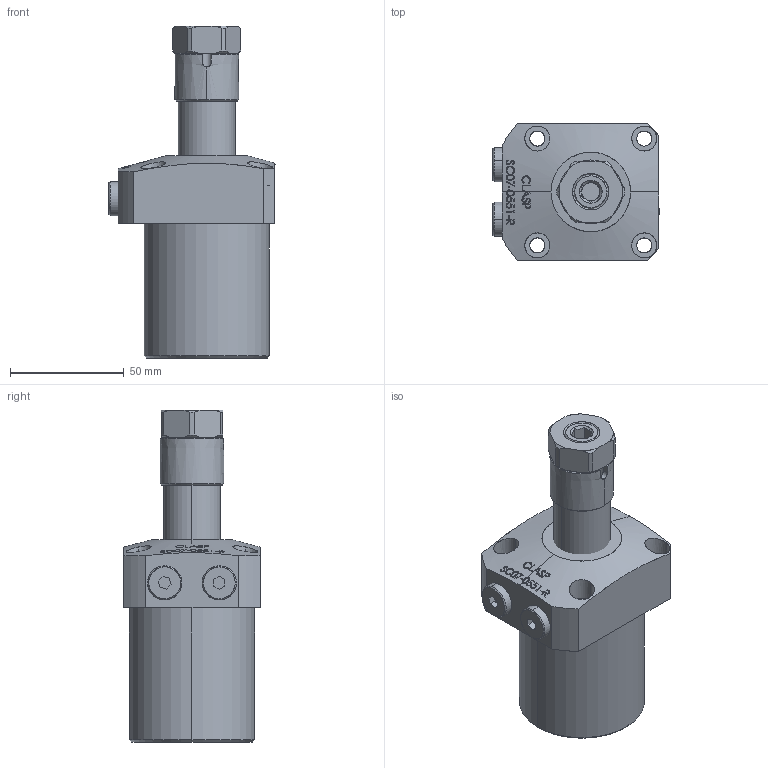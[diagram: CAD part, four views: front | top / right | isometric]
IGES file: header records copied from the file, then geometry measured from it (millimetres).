
Start section: SolidWorks IGES file using analytic representation for surfaces
Global section: file name: D:\karuppas\Clasp\3D model\SWING CYLINDER\Top Mounting swing cylinder\SC07-0551-R\SC07-0551-R.IGS; native system: SolidWorks 2017; preprocessor: SolidWorks 2017; author: pc; date: 220705.232204; units: millimetre
Bounding box: 73 x 60 x 146 mm (x, y, z)
Surface area: 43453.8 mm2 (no closed solid volume)
Topology: 0 solids, 0 shells, 367 faces, 6169 edges, 6168 vertices
Faces by surface type: bspline 254, revolution 113
